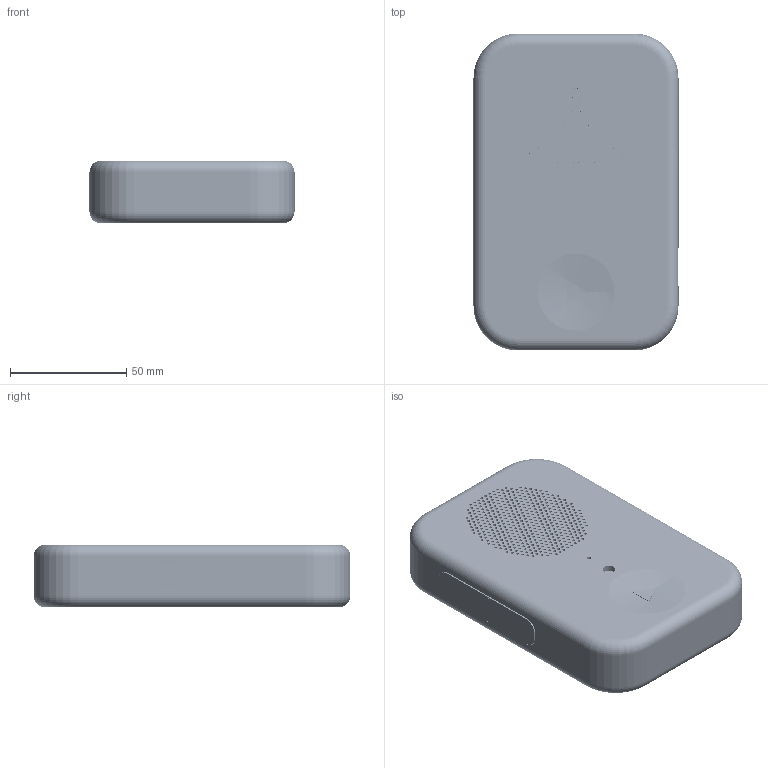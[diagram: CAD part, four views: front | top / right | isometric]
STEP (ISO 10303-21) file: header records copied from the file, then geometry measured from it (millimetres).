
FILE_DESCRIPTION(('Open CASCADE Model'),'2;1');
FILE_NAME('Open CASCADE Shape Model','2026-09-04T20:19:49',('Author'),( 'Open CASCADE'),'Open CASCADE STEP processor 7.7','Open CASCADE 7.7' ,'Unknown');
FILE_SCHEMA(('AUTOMOTIVE_DESIGN { 1 0 10303 214 1 1 1 1 }'));
Length unit declared in the file: millimetre
Products named in the file (44): Walkie_One_02_2_R9_CASE_ONLY; 01_front_structural_tub; 01_front_structural_tub_part; 02_rear_structural_cover; 02_rear_structural_cover_part; 03_continuous_silicone_skin; 03_continuous_silicone_skin_part; 04_rear_silicone_service_pad; 04_rear_silicone_service_pad_part; 07_speaker_edge_cradle; 07_speaker_edge_cradle_part; 08_speaker_front_gasket; 08_speaker_front_gasket_part; 09_battery_tray; 09_battery_tray_part; 10_ptt_key; 10_ptt_key_part; 11_ptt_silicone_face; 11_ptt_silicone_face_part; 12_ptt_switch_cradle; 12_ptt_switch_cradle_part; 10_volume_plus_key; 10_volume_plus_key_part; 11_volume_plus_silicone_face; 11_volume_plus_silicone_face_part; 12_volume_plus_switch_cradle; 12_volume_plus_switch_cradle_part; 10_volume_minus_key; 10_volume_minus_key_part; 11_volume_minus_silicone_face; 11_volume_minus_silicone_face_part; 12_volume_minus_switch_cradle; 12_volume_minus_switch_cradle_part; 13_action_plunger_under_membrane; 13_action_plunger_under_membrane_part; 15_front_switch_holder; 15_front_switch_holder_part; 16_rgb_led_support_ring; 16_rgb_led_support_ring_part; 17_microphone_cradle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
Assembly tree (43 placements, depth 4):
  Walkie_One_02_2_R9_CASE_ONLY
    Walkie_One_02_2_R9_CASE_ONLY
      01_front_structural_tub
        01_front_structural_tub_part
      02_rear_structural_cover
        02_rear_structural_cover_part
      03_continuous_silicone_skin
        03_continuous_silicone_skin_part
      04_rear_silicone_service_pad
        04_rear_silicone_service_pad_part
      07_speaker_edge_cradle
        07_speaker_edge_cradle_part
      08_speaker_front_gasket
        08_speaker_front_gasket_part
      09_battery_tray
        09_battery_tray_part
      10_ptt_key
        10_ptt_key_part
      11_ptt_silicone_face
        11_ptt_silicone_face_part
      12_ptt_switch_cradle
        12_ptt_switch_cradle_part
      10_volume_plus_key
        10_volume_plus_key_part
      11_volume_plus_silicone_face
        11_volume_plus_silicone_face_part
      12_volume_plus_switch_cradle
        12_volume_plus_switch_cradle_part
      10_volume_minus_key
        10_volume_minus_key_part
      11_volume_minus_silicone_face
        11_volume_minus_silicone_face_part
      12_volume_minus_switch_cradle
        12_volume_minus_switch_cradle_part
      13_action_plunger_under_membrane
        13_action_plunger_under_membrane_part
      15_front_switch_holder
        15_front_switch_holder_part
      16_rgb_led_support_ring
        16_rgb_led_support_ring_part
      17_microphone_cradle
        17_microphone_cradle_part
      18_microphone_acoustic_gasket
        18_microphone_acoustic_gasket_part
Bounding box: 88.6 x 136 x 27 mm (x, y, z)
Volume: 100825.9 mm3; surface area: 154909.1 mm2
Topology: 21 solids, 23 shells, 2516 faces, 7149 edges, 4738 vertices
Faces by surface type: cylinder 1170, plane 883, extrusion 421, torus 32, sphere 10
Full cylindrical faces by diameter (mm): 1.3 x906, 1.8 x3, 2.8 x4, 5 x1, 5.3 x8, 5.4 x2, 6 x1, 6.2 x2, 6.3 x1, 8.4 x1, 33 x1, 34.6 x1, 36.4 x1, 39 x1, 39.6 x1
Entity records: 193764 total; most frequent: CARTESIAN_POINT 53592, DIRECTION 24138, VECTOR 14641, ORIENTED_EDGE 14292, PCURVE 14292, DEFINITIONAL_REPRESENTATION 14292, LINE 14220, EDGE_CURVE 7146
